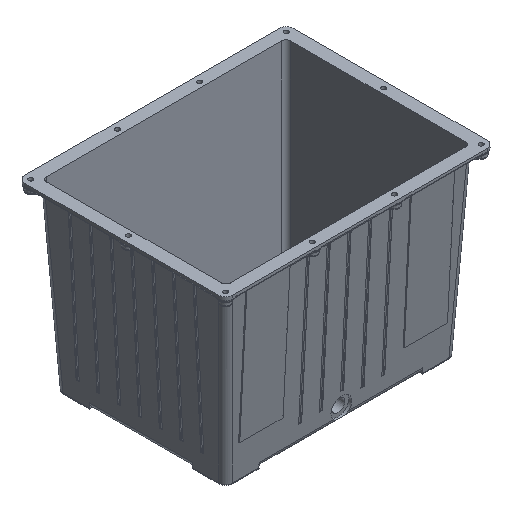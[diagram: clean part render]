
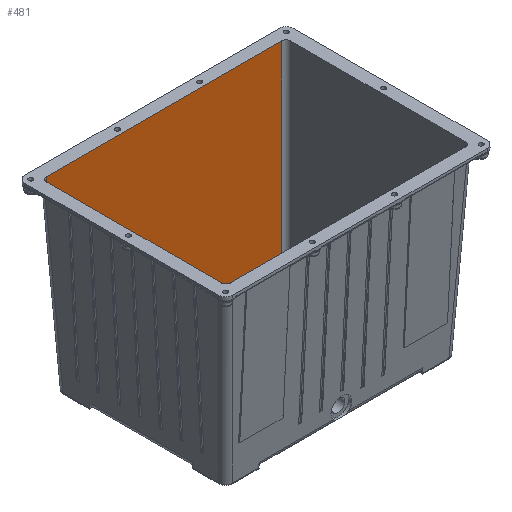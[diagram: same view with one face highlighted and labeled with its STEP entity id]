
A CAD part, isometric view. The second image highlights one B-rep face of the part: STEP entity #481.
In plain terms, the highlighted planar face has unit normal (0, -0.999, 0.052).
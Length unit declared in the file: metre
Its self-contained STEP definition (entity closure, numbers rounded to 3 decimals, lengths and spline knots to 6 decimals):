
#481 = ADVANCED_FACE( '', ( #1725 ), #1726, .F. );
#1725 = FACE_OUTER_BOUND( '', #10473, .T. );
#1726 = PLANE( '', #10474 );
#10473 = EDGE_LOOP( '', ( #19459, #19460, #19461, #19462 ) );
#10474 = AXIS2_PLACEMENT_3D( '', #19463, #19464, #19465 );
#19459 = ORIENTED_EDGE( '', *, *, #23693, .T. );
#19460 = ORIENTED_EDGE( '', *, *, #23704, .T. );
#19461 = ORIENTED_EDGE( '', *, *, #23705, .T. );
#19462 = ORIENTED_EDGE( '', *, *, #23706, .F. );
#19463 = CARTESIAN_POINT( '', ( 0., 0.106, 0. ) );
#19464 = DIRECTION( '', ( 0., 0.999, -0.052 ) );
#19465 = DIRECTION( '', ( 0., 0.052, 0.999 ) );
#23693 = EDGE_CURVE( '', #26588, #26586, #26589, .T. );
#23704 = EDGE_CURVE( '', #26586, #26606, #26607, .T. );
#23705 = EDGE_CURVE( '', #26606, #26608, #26609, .F. );
#23706 = EDGE_CURVE( '', #26588, #26608, #26610, .F. );
#26586 = VERTEX_POINT( '', #34724 );
#26588 = VERTEX_POINT( '', #34726 );
#26589 = LINE( '', #34727, #34728 );
#26606 = VERTEX_POINT( '', #34754 );
#26607 = LINE( '', #34755, #34756 );
#26608 = VERTEX_POINT( '', #34757 );
#26609 = LINE( '', #34758, #34759 );
#26610 = LINE( '', #34760, #34761 );
#34724 = CARTESIAN_POINT( '', ( -0.125407, 0.0954, -0.202262 ) );
#34726 = CARTESIAN_POINT( '', ( -0.136007, 0.106, 0. ) );
#34727 = CARTESIAN_POINT( '', ( -0.125172, 0.095165, -0.20674 ) );
#34728 = VECTOR( '', #40462, 1. );
#34754 = CARTESIAN_POINT( '', ( 0.125407, 0.0954, -0.202262 ) );
#34755 = CARTESIAN_POINT( '', ( 0., 0.0954, -0.202262 ) );
#34756 = VECTOR( '', #40475, 1. );
#34757 = CARTESIAN_POINT( '', ( 0.136007, 0.106, 0. ) );
#34758 = CARTESIAN_POINT( '', ( 0.13602, 0.106014, 0.00026 ) );
#34759 = VECTOR( '', #40476, 1. );
#34760 = CARTESIAN_POINT( '', ( 0., 0.106, 0. ) );
#34761 = VECTOR( '', #40477, 1. );
#40462 = DIRECTION( '', ( 0.052, -0.052, -0.997 ) );
#40475 = DIRECTION( '', ( 1., 0., 0. ) );
#40476 = DIRECTION( '', ( -0.052, -0.052, -0.997 ) );
#40477 = DIRECTION( '', ( -1., 0., 0. ) );
